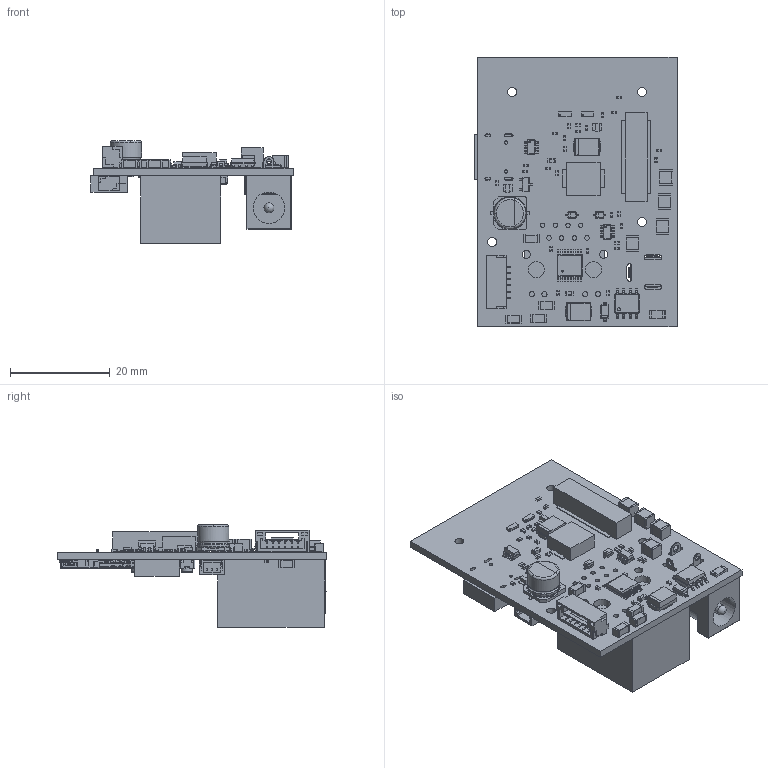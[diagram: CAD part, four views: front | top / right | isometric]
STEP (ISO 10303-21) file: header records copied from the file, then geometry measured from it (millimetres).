
FILE_DESCRIPTION(('KiCad electronic assembly'),'2;1');
FILE_NAME('carrier.step','2026-11-27T15:56:45',('Pcbnew'),('Kicad'), 'Open CASCADE STEP processor 7.9','KiCad to STEP converter','Unknown' );
FILE_SCHEMA(('AUTOMOTIVE_DESIGN { 1 0 10303 214 1 1 1 1 }'));
Length unit declared in the file: millimetre
Products named in the file (56): carrier 1; R_0402_1005Metric; SOT-23-6; C_1210_3225Metric; Fuse_1206_3216Metric; USON-10_2.5x1.0mm_P0.5mm; USON_10_25x10mm_Pitch05mm; C_0402_1005Metric; D_SOD-123; BTB_ST-BTB-058060-A_2x30_P0.5mm; D_SMB; L_Bourns_SRP7028A_7.3x6.6mm; D_SOD-323; SOIC-8_3.9x4.9mm_P1.27mm; SOT-23; SOT-523; C_0603_1608Metric; C_1206_3216Metric; CP_Elec_6.3x5.4; CP_Elec_63x54; JST_GH_SM06B-GHS-TB_1x06-1MP_P1.25mm_Horizontal; JST_SM06B_GHS_TB; HTSSOP-16-1EP_4.4x5mm_P0.65mm_EP3.4x5mm_Mask2.66x2.46mm; JST_SH_SM03B-SRSS-TB_1x03-1MP_P1.00mm_Horizontal; LED_0603_1608Metric; R_0603_1608Metric; SW_SPST_PTS810; RJ45_Hanrun_HR911105A_Horizontal; microSD_HC_Hirose_DM3AT-SF-PEJM5; USB_C_Receptacle_HRO_TYPE-C-31-M-12; BarrelJack_Horizontal; carrier_PCB
Assembly tree (101 placements, depth 3):
  carrier 1
    R_0402_1005Metric  x22
      R_0402_1005Metric
    SOT-23-6  x2
      SOT-23-6
    C_1210_3225Metric  x4
      C_1210_3225Metric
    Fuse_1206_3216Metric
      Fuse_1206_3216Metric
    USON-10_2.5x1.0mm_P0.5mm  x2
      USON_10_25x10mm_Pitch05mm
    C_0402_1005Metric  x11
      C_0402_1005Metric
    D_SOD-123
      D_SOD-123
    BTB_ST-BTB-058060-A_2x30_P0.5mm
      BTB_ST-BTB-058060-A_2x30_P0.5mm
    D_SMB  x2
      D_SMB
    L_Bourns_SRP7028A_7.3x6.6mm
      L_Bourns_SRP7028A_7.3x6.6mm
    D_SOD-323  x2
      D_SOD-323
    SOIC-8_3.9x4.9mm_P1.27mm
      SOIC-8_3.9x4.9mm_P1.27mm
    SOT-23
      SOT-23
    SOT-523  x2
      SOT-523
    C_0603_1608Metric  x2
      C_0603_1608Metric
    C_1206_3216Metric  x5
      C_1206_3216Metric
    CP_Elec_6.3x5.4
      CP_Elec_63x54
    JST_GH_SM06B-GHS-TB_1x06-1MP_P1.25mm_Horizontal
      JST_SM06B_GHS_TB
    HTSSOP-16-1EP_4.4x5mm_P0.65mm_EP3.4x5mm_Mask2.66x2.46mm
      HTSSOP-16-1EP_4.4x5mm_P0.65mm_EP3.4x5mm_Mask2.66x2.46mm
    JST_SH_SM03B-SRSS-TB_1x03-1MP_P1.00mm_Horizontal
      JST_SH_SM03B-SRSS-TB_1x03-1MP_P1.00mm_Horizontal
    LED_0603_1608Metric  x2
      LED_0603_1608Metric
    R_0603_1608Metric
      R_0603_1608Metric
    SW_SPST_PTS810  x2
      SW_SPST_PTS810
    RJ45_Hanrun_HR911105A_Horizontal
      RJ45_Hanrun_HR911105A_Horizontal
    microSD_HC_Hirose_DM3AT-SF-PEJM5
      microSD_HC_Hirose_DM3AT-SF-PEJM5
    USB_C_Receptacle_HRO_TYPE-C-31-M-12
      USB_C_Receptacle_HRO_TYPE-C-31-M-12
    BarrelJack_Horizontal
      BarrelJack_Horizontal
    carrier_PCB
Bounding box: 40.45 x 54 x 20.54 mm (x, y, z)
Volume: 9879.7 mm3; surface area: 11619.5 mm2
Topology: 83 solids, 83 shells, 4119 faces, 10909 edges, 6992 vertices
Faces by surface type: plane 2994, cylinder 963, bspline 146, torus 8, sphere 5, extrusion 2, revolution 1
Full cylindrical faces by diameter (mm): 0.2 x2, 0.6 x2, 0.65 x2, 0.89 x8, 1 x2, 1.02 x4, 1.5 x2, 1.63 x2, 1.8 x4, 2 x2, 3.25 x2, 6.3 x3
Entity records: 98525 total; most frequent: CARTESIAN_POINT 15027, ORIENTED_EDGE 14100, DIRECTION 13210, EDGE_CURVE 7051, VECTOR 5827, LINE 5825, VERTEX_POINT 4475, AXIS2_PLACEMENT_3D 3691
